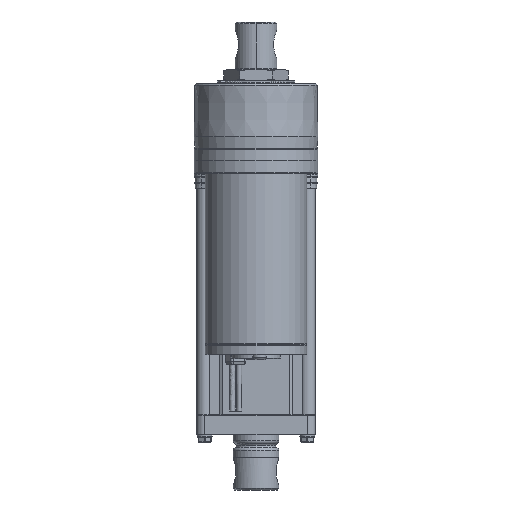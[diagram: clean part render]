
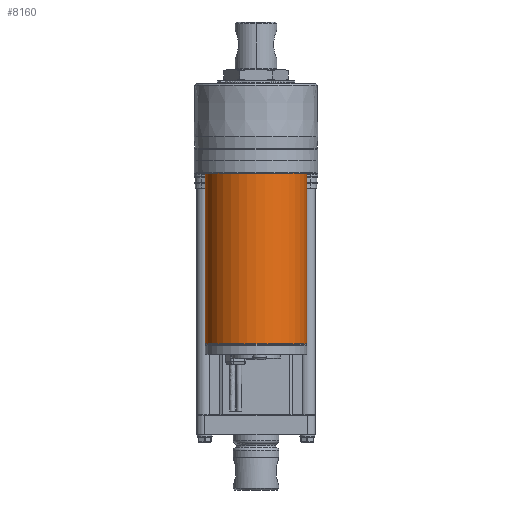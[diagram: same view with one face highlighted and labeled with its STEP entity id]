
A CAD part, front view. The second image highlights one B-rep face of the part: STEP entity #8160.
In plain terms, the highlighted cylindrical face has radius 31.75 mm (diameter 63.5 mm), a partial arc.
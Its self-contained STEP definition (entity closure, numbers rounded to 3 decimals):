
#622 = LINE ( 'NONE', #15740, #3500 ) ;
#2014 = VERTEX_POINT ( 'NONE', #15671 ) ;
#2748 = EDGE_LOOP ( 'NONE', ( #28713, #30154, #25798, #10582 ) ) ;
#2877 = DIRECTION ( 'NONE',  ( 0., 0., 1. ) ) ;
#3500 = VECTOR ( 'NONE', #6654, 1000. ) ;
#4633 = CARTESIAN_POINT ( 'NONE',  ( -31.75, -74.5, -15.8 ) ) ;
#5265 = CARTESIAN_POINT ( 'NONE',  ( 31.75, -74.5, -121.8 ) ) ;
#6195 = CYLINDRICAL_SURFACE ( 'NONE', #7773, 31.75 ) ;
#6625 = EDGE_CURVE ( 'NONE', #36611, #2014, #8453, .T. ) ;
#6654 = DIRECTION ( 'NONE',  ( 0., 0., 1. ) ) ;
#7773 = AXIS2_PLACEMENT_3D ( 'NONE', #9704, #30002, #15295 ) ;
#8160 = ADVANCED_FACE ( 'NONE', ( #36157 ), #6195, .T. ) ;
#8453 = CIRCLE ( 'NONE', #22686, 31.75 ) ;
#8724 = CARTESIAN_POINT ( 'NONE',  ( -31.75, -74.5, -121.8 ) ) ;
#9453 = EDGE_CURVE ( 'NONE', #26595, #2014, #11409, .T. ) ;
#9540 = DIRECTION ( 'NONE',  ( 1., 0., 0. ) ) ;
#9603 = EDGE_CURVE ( 'NONE', #29032, #26595, #27959, .T. ) ;
#9704 = CARTESIAN_POINT ( 'NONE',  ( 0., -74.5, -15.8 ) ) ;
#10025 = AXIS2_PLACEMENT_3D ( 'NONE', #12550, #26677, #23573 ) ;
#10582 = ORIENTED_EDGE ( 'NONE', *, *, #6625, .F. ) ;
#11409 = LINE ( 'NONE', #25933, #22994 ) ;
#12432 = CARTESIAN_POINT ( 'NONE',  ( 0., -74.5, -15.8 ) ) ;
#12550 = CARTESIAN_POINT ( 'NONE',  ( 0., -74.5, -121.8 ) ) ;
#14276 = EDGE_CURVE ( 'NONE', #29032, #36611, #622, .T. ) ;
#15295 = DIRECTION ( 'NONE',  ( 1., 0., 0. ) ) ;
#15671 = CARTESIAN_POINT ( 'NONE',  ( 31.75, -74.5, -15.8 ) ) ;
#15740 = CARTESIAN_POINT ( 'NONE',  ( -31.75, -74.5, -15.8 ) ) ;
#18039 = DIRECTION ( 'NONE',  ( 0., 0., 1. ) ) ;
#22686 = AXIS2_PLACEMENT_3D ( 'NONE', #12432, #18039, #9540 ) ;
#22994 = VECTOR ( 'NONE', #2877, 1000. ) ;
#23573 = DIRECTION ( 'NONE',  ( 1., 0., 0. ) ) ;
#25798 = ORIENTED_EDGE ( 'NONE', *, *, #9453, .T. ) ;
#25933 = CARTESIAN_POINT ( 'NONE',  ( 31.75, -74.5, -15.8 ) ) ;
#26595 = VERTEX_POINT ( 'NONE', #5265 ) ;
#26677 = DIRECTION ( 'NONE',  ( 0., 0., 1. ) ) ;
#27959 = CIRCLE ( 'NONE', #10025, 31.75 ) ;
#28713 = ORIENTED_EDGE ( 'NONE', *, *, #14276, .F. ) ;
#29032 = VERTEX_POINT ( 'NONE', #8724 ) ;
#30002 = DIRECTION ( 'NONE',  ( 0., 0., 1. ) ) ;
#30154 = ORIENTED_EDGE ( 'NONE', *, *, #9603, .T. ) ;
#36157 = FACE_OUTER_BOUND ( 'NONE', #2748, .T. ) ;
#36611 = VERTEX_POINT ( 'NONE', #4633 ) ;
